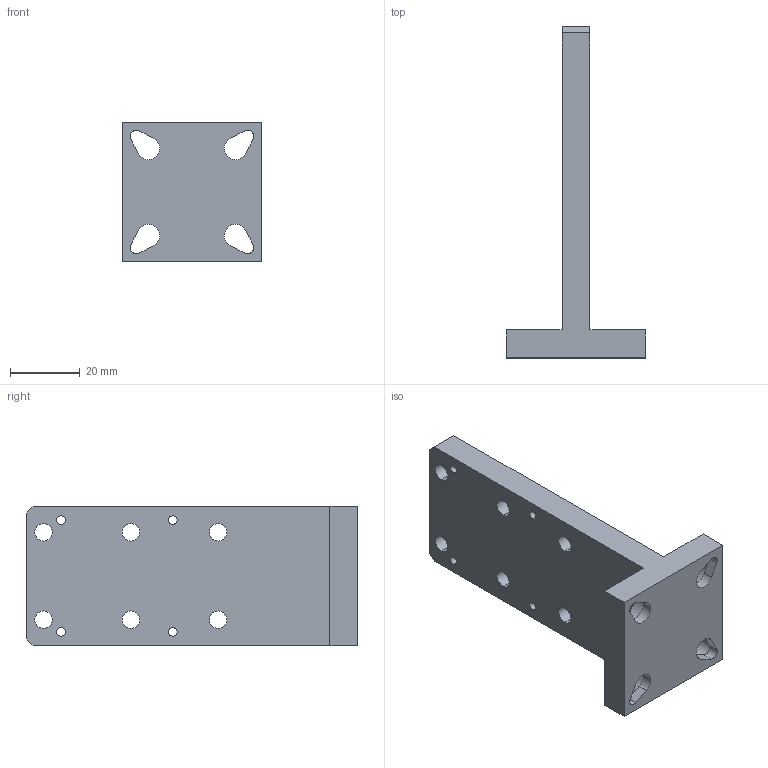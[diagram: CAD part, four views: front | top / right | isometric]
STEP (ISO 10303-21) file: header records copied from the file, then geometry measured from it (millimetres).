
FILE_DESCRIPTION (( 'STEP AP203' ), '1' );
FILE_NAME ('PJK24.STEP', '2022-04-10T01:01:39', ( '' ), ( '' ), 'SwSTEP 2.0', 'SolidWorks 2017', '' );
FILE_SCHEMA (( 'CONFIG_CONTROL_DESIGN' ));
Length unit declared in the file: millimetre
Products named in the file (1): PJK24
Bounding box: 40 x 95 x 40 mm (x, y, z)
Volume: 36762 mm3; surface area: 14230.1 mm2
Topology: 1 solids, 1 shells, 76 faces, 210 edges, 140 vertices
Faces by surface type: cylinder 44, plane 32
Entity records: 2595 total; most frequent: DIRECTION 452, CARTESIAN_POINT 427, ORIENTED_EDGE 420, EDGE_CURVE 210, AXIS2_PLACEMENT_3D 165, VERTEX_POINT 140, VECTOR 122, LINE 122
